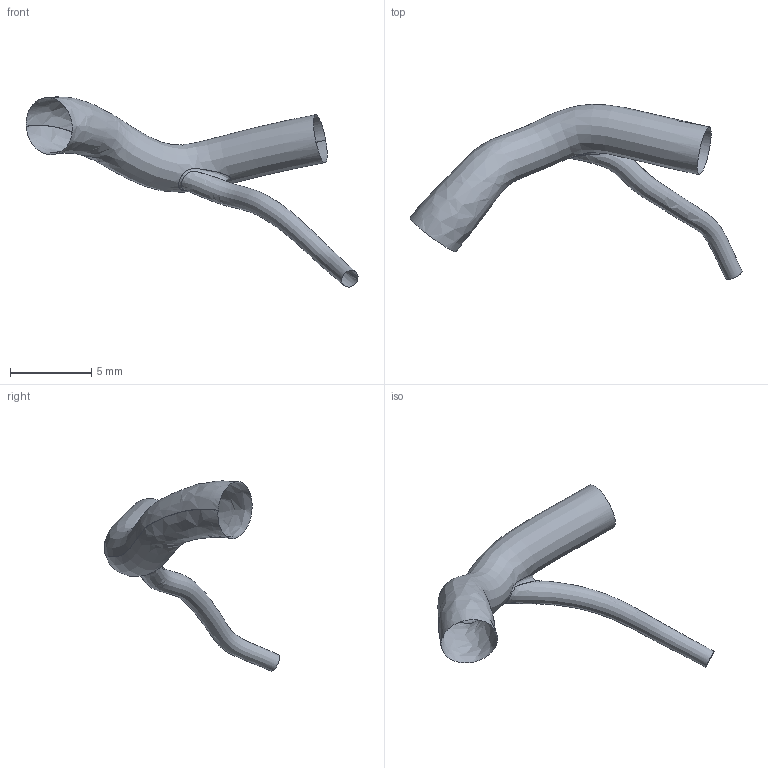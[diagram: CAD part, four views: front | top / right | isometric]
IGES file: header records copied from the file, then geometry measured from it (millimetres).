
Global section: file name: C:\Documents and Settings\Administrator\Desktop\FDA-Pig\Domestic RCA\Pig_000005\rv.ed.igs; native system: Rhinoceros ( May 19 2006 ); preprocessor: Trout Lake IGES 012 May 19 2006; date: 111205.185211; units: centimetre
Bounding box: 20.49 x 10.8 x 11.74 mm (x, y, z)
Surface area: 248.1 mm2 (no closed solid volume)
Topology: 0 solids, 0 shells, 3 faces, 49 edges, 46 vertices
Faces by surface type: bspline 3
